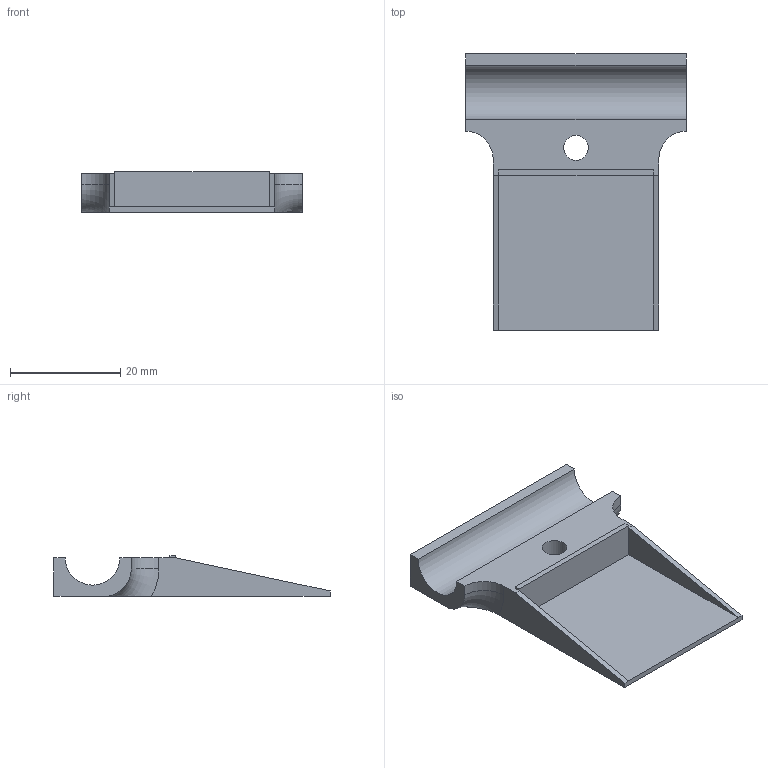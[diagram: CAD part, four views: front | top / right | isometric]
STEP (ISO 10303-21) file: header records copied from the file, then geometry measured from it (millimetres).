
FILE_DESCRIPTION((''),'2;1');
FILE_NAME('D:\Documents\Studium\Fächer\10. Semester\Studienarbeit\Design\LED Halter Oberseite.stp','2016-05-30T09:31:01',('Fabian'),(''),'Autodesk Inventor 2013','Autodesk Inventor 2013','');
FILE_SCHEMA(('AUTOMOTIVE_DESIGN { 1 0 10303 214 1 1 1 1 }'));
Length unit declared in the file: millimetre
Products named in the file (1): LED Halter Oberseite
Bounding box: 40 x 50 x 7.4 mm (x, y, z)
Volume: 4903.2 mm3; surface area: 4773.8 mm2
Topology: 1 solids, 1 shells, 32 faces, 92 edges, 74 vertices
Faces by surface type: plane 26, cylinder 4, torus 2
Full cylindrical faces by diameter (mm): 4.5 x1
Entity records: 1122 total; most frequent: CARTESIAN_POINT 205, DIRECTION 167, ORIENTED_EDGE 160, EDGE_CURVE 80, VECTOR 77, LINE 77, VERTEX_POINT 52, AXIS2_PLACEMENT_3D 45
